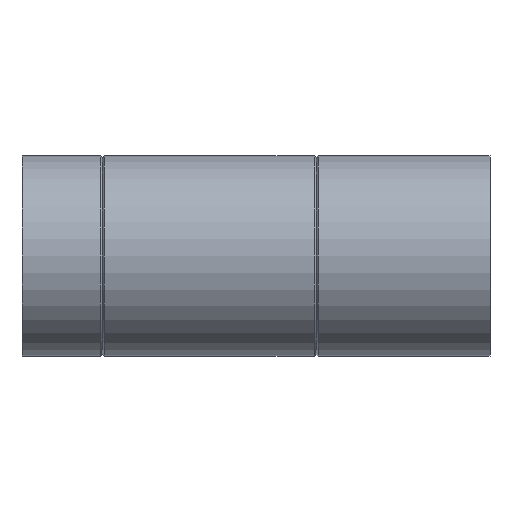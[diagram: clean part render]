
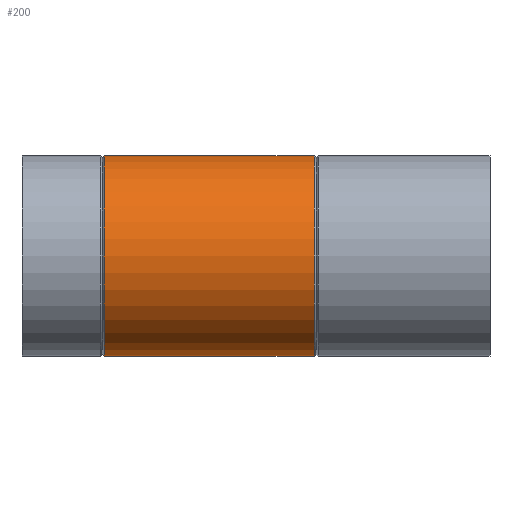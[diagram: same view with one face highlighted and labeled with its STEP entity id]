
A CAD part, left-side view. The second image highlights one B-rep face of the part: STEP entity #200.
In plain terms, the highlighted cylindrical face has radius 37.5 mm (diameter 75 mm), a full revolution.
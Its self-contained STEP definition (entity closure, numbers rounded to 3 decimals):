
#15=B_SPLINE_CURVE_WITH_KNOTS($,3,(#325,#326,#327,#328,#329,#330,#331,#332,
#333,#334,#335,#336,#337,#338,#339,#340,#341,#342,#343,#344,#345,#346,#347,
#348,#349,#350,#351,#352,#353,#354,#355,#356,#357,#358,#359,#360,#361,#362,
#363,#364,#365,#366,#367,#368,#369,#370,#371,#372,#373,#374,#375,#376,#377,
#378,#379,#380,#381,#382,#383,#384,#385,#386,#387,#388,#389,#390),
 .UNSPECIFIED.,.T.,.F.,(4,2,2,2,2,2,2,2,2,2,2,2,2,2,2,2,2,2,2,2,2,2,2,2,
2,2,2,2,2,2,2,2,4),(0.,0.567,1.134,1.701,
2.268,2.822,3.375,3.929,4.483,
5.037,5.591,6.145,6.698,7.265,
7.832,8.399,8.966,9.525,10.084,
10.642,11.201,11.752,12.304,12.856,
13.408,13.96,14.511,15.063,15.615,
16.173,16.732,17.291,17.849),
 .UNSPECIFIED.);
#17=CYLINDRICAL_SURFACE($,#222,37.5);
#26=FACE_BOUND($,#63,.T.);
#27=FACE_BOUND($,#64,.T.);
#48=FACE_OUTER_BOUND($,#62,.T.);
#62=EDGE_LOOP($,(#145));
#63=EDGE_LOOP($,(#146));
#64=EDGE_LOOP($,(#147));
#94=CIRCLE($,#221,37.5);
#95=CIRCLE($,#223,37.5);
#109=VERTEX_POINT($,#319);
#110=VERTEX_POINT($,#322);
#111=VERTEX_POINT($,#324);
#126=EDGE_CURVE($,#109,#109,#94,.T.);
#127=EDGE_CURVE($,#110,#110,#95,.T.);
#128=EDGE_CURVE($,#111,#111,#15,.T.);
#145=ORIENTED_EDGE($,*,*,#127,.T.);
#146=ORIENTED_EDGE($,*,*,#128,.T.);
#147=ORIENTED_EDGE($,*,*,#126,.T.);
#200=ADVANCED_FACE($,(#48,#26,#27),#17,.T.);
#221=AXIS2_PLACEMENT_3D($,#320,#258,#259);
#222=AXIS2_PLACEMENT_3D($,#321,#260,#261);
#223=AXIS2_PLACEMENT_3D($,#323,#262,#263);
#258=DIRECTION('center_axis',(0.,-1.,0.));
#259=DIRECTION('ref_axis',(1.,0.,0.));
#260=DIRECTION('center_axis',(0.,1.,0.));
#261=DIRECTION('ref_axis',(1.,0.,0.));
#262=DIRECTION('center_axis',(0.,1.,0.));
#263=DIRECTION('ref_axis',(1.,0.,0.));
#319=CARTESIAN_POINT('',(37.5,144.25,0.));
#320=CARTESIAN_POINT('Origin',(0.,144.25,0.));
#321=CARTESIAN_POINT('Origin',(0.,0.,0.));
#322=CARTESIAN_POINT('',(-37.5,65.75,0.));
#323=CARTESIAN_POINT('Origin',(0.,65.75,0.));
#324=CARTESIAN_POINT('',(24.945,105.653,28.));
#325=CARTESIAN_POINT('Ctrl Pts',(24.945,105.653,28.));
#326=CARTESIAN_POINT('Ctrl Pts',(24.945,107.543,28.));
#327=CARTESIAN_POINT('Ctrl Pts',(25.166,109.441,27.807));
#328=CARTESIAN_POINT('Ctrl Pts',(25.974,113.141,27.054));
#329=CARTESIAN_POINT('Ctrl Pts',(26.558,114.945,26.493));
#330=CARTESIAN_POINT('Ctrl Pts',(27.921,118.374,25.053));
#331=CARTESIAN_POINT('Ctrl Pts',(28.699,120.003,24.172));
#332=CARTESIAN_POINT('Ctrl Pts',(30.285,123.018,22.152));
#333=CARTESIAN_POINT('Ctrl Pts',(31.092,124.405,21.014));
#334=CARTESIAN_POINT('Ctrl Pts',(32.585,126.846,18.612));
#335=CARTESIAN_POINT('Ctrl Pts',(33.33,127.998,17.263));
#336=CARTESIAN_POINT('Ctrl Pts',(34.708,130.062,14.292));
#337=CARTESIAN_POINT('Ctrl Pts',(35.341,130.973,12.669));
#338=CARTESIAN_POINT('Ctrl Pts',(36.389,132.46,9.238));
#339=CARTESIAN_POINT('Ctrl Pts',(36.805,133.036,7.425));
#340=CARTESIAN_POINT('Ctrl Pts',(37.361,133.802,3.729));
#341=CARTESIAN_POINT('Ctrl Pts',(37.5,133.992,1.846));
#342=CARTESIAN_POINT('Ctrl Pts',(37.5,133.992,-1.846));
#343=CARTESIAN_POINT('Ctrl Pts',(37.361,133.802,-3.729));
#344=CARTESIAN_POINT('Ctrl Pts',(36.805,133.036,-7.425));
#345=CARTESIAN_POINT('Ctrl Pts',(36.389,132.46,-9.238));
#346=CARTESIAN_POINT('Ctrl Pts',(35.341,130.973,-12.669));
#347=CARTESIAN_POINT('Ctrl Pts',(34.708,130.062,-14.292));
#348=CARTESIAN_POINT('Ctrl Pts',(33.33,127.998,-17.263));
#349=CARTESIAN_POINT('Ctrl Pts',(32.585,126.846,-18.612));
#350=CARTESIAN_POINT('Ctrl Pts',(31.092,124.405,-21.014));
#351=CARTESIAN_POINT('Ctrl Pts',(30.285,123.018,-22.152));
#352=CARTESIAN_POINT('Ctrl Pts',(28.699,120.003,-24.172));
#353=CARTESIAN_POINT('Ctrl Pts',(27.921,118.374,-25.053));
#354=CARTESIAN_POINT('Ctrl Pts',(26.558,114.945,-26.493));
#355=CARTESIAN_POINT('Ctrl Pts',(25.974,113.141,-27.054));
#356=CARTESIAN_POINT('Ctrl Pts',(25.166,109.441,-27.807));
#357=CARTESIAN_POINT('Ctrl Pts',(24.945,107.543,-28.));
#358=CARTESIAN_POINT('Ctrl Pts',(24.945,103.791,-28.));
#359=CARTESIAN_POINT('Ctrl Pts',(25.16,101.92,-27.812));
#360=CARTESIAN_POINT('Ctrl Pts',(25.958,98.277,-27.069));
#361=CARTESIAN_POINT('Ctrl Pts',(26.538,96.504,-26.514));
#362=CARTESIAN_POINT('Ctrl Pts',(27.895,93.143,-25.081));
#363=CARTESIAN_POINT('Ctrl Pts',(28.673,91.552,-24.202));
#364=CARTESIAN_POINT('Ctrl Pts',(30.259,88.613,-22.188));
#365=CARTESIAN_POINT('Ctrl Pts',(31.066,87.266,-21.052));
#366=CARTESIAN_POINT('Ctrl Pts',(32.567,84.888,-18.646));
#367=CARTESIAN_POINT('Ctrl Pts',(33.318,83.765,-17.287));
#368=CARTESIAN_POINT('Ctrl Pts',(34.706,81.759,-14.3));
#369=CARTESIAN_POINT('Ctrl Pts',(35.341,80.877,-12.67));
#370=CARTESIAN_POINT('Ctrl Pts',(36.391,79.442,-9.229));
#371=CARTESIAN_POINT('Ctrl Pts',(36.807,78.888,-7.413));
#372=CARTESIAN_POINT('Ctrl Pts',(37.362,78.153,-3.719));
#373=CARTESIAN_POINT('Ctrl Pts',(37.5,77.972,-1.839));
#374=CARTESIAN_POINT('Ctrl Pts',(37.5,77.972,1.839));
#375=CARTESIAN_POINT('Ctrl Pts',(37.362,78.153,3.719));
#376=CARTESIAN_POINT('Ctrl Pts',(36.807,78.888,7.413));
#377=CARTESIAN_POINT('Ctrl Pts',(36.391,79.442,9.229));
#378=CARTESIAN_POINT('Ctrl Pts',(35.341,80.877,12.67));
#379=CARTESIAN_POINT('Ctrl Pts',(34.706,81.759,14.3));
#380=CARTESIAN_POINT('Ctrl Pts',(33.318,83.765,17.287));
#381=CARTESIAN_POINT('Ctrl Pts',(32.567,84.888,18.646));
#382=CARTESIAN_POINT('Ctrl Pts',(31.066,87.266,21.052));
#383=CARTESIAN_POINT('Ctrl Pts',(30.259,88.613,22.188));
#384=CARTESIAN_POINT('Ctrl Pts',(28.673,91.552,24.202));
#385=CARTESIAN_POINT('Ctrl Pts',(27.895,93.143,25.081));
#386=CARTESIAN_POINT('Ctrl Pts',(26.538,96.504,26.514));
#387=CARTESIAN_POINT('Ctrl Pts',(25.958,98.277,27.069));
#388=CARTESIAN_POINT('Ctrl Pts',(25.16,101.92,27.812));
#389=CARTESIAN_POINT('Ctrl Pts',(24.945,103.791,28.));
#390=CARTESIAN_POINT('Ctrl Pts',(24.945,105.653,28.));
